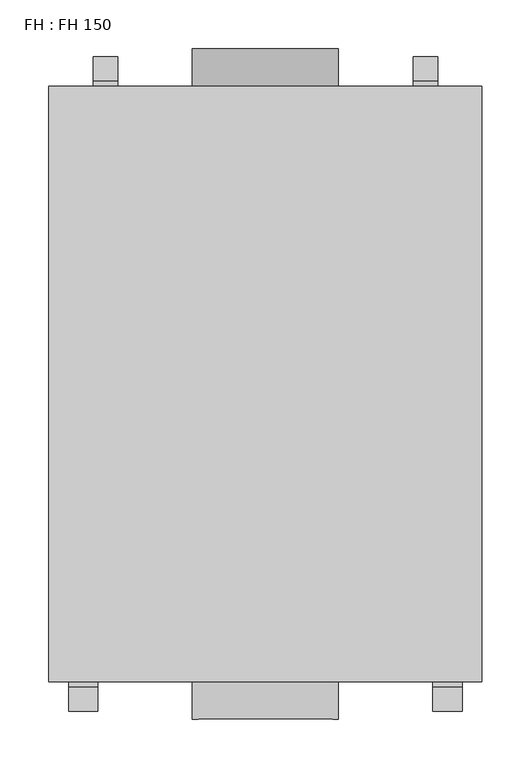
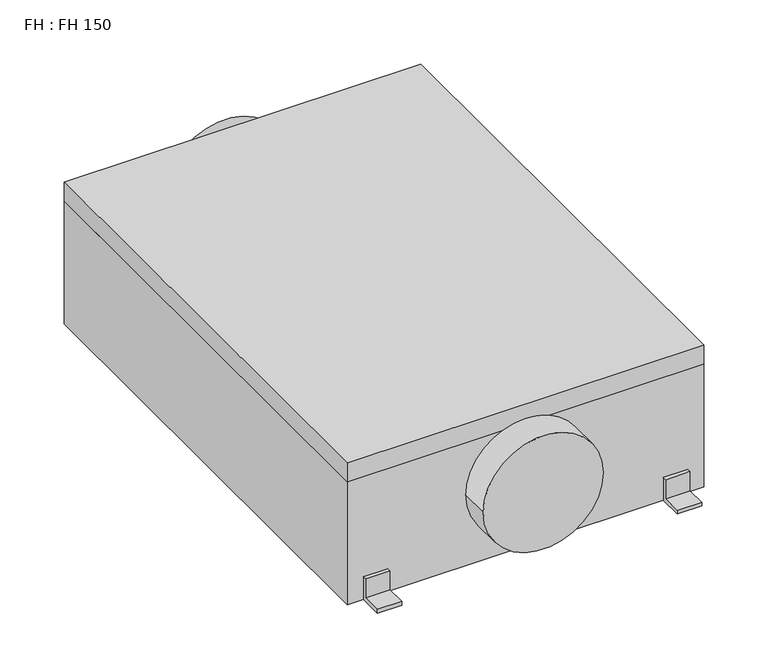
"""IFC4 building model written with IfcOpenShell, lengths in millimetres: proxy geometry, FH : FH 150."""

from ifc_helpers import new_model, si_unit, point, frame, frame_2d, origin, origin_with_axes, place, context, project, spatial, polyline, circle_curve, trimmed, segment, composite_curve, outline, extrude, source, transform, mapped, element, save


def fh_fh_150_19aaf5c2(model_context):
    return source(origin(), model_context, "Body", "SweptSolid", [
        extrude(outline(polyline([(221.0, 304.0), (221.0, -304.0), (-221.0, -304.0), (-221.0, 304.0), (221.0, 304.0)])), frame((0.0, 0.0, 161.0), z_axis=(0.0, 0.0, 1.0), x_axis=(1.0, 0.0, 0.0)), (0.0, 0.0, 1.0), 25.0),
        extrude(outline(polyline([(-304.0, 30.0), (-304.0, 0.0), (-334.0, 0.0), (-334.0, 5.0), (-309.0, 5.0), (-309.0, 30.0), (-304.0, 30.0)])), frame((171.0, 0.0, 0.0), z_axis=(1.0, 0.0, 0.0), x_axis=(0.0, 1.0, 0.0)), (0.0, 0.0, 1.0), 30.0),
        extrude(outline(polyline([(-304.0, 30.0), (-304.0, 0.0), (-334.0, 0.0), (-334.0, 5.0), (-309.0, 5.0), (-309.0, 30.0), (-304.0, 30.0)])), frame((-201.0, 0.0, 0.0), z_axis=(1.0, 0.0, 0.0), x_axis=(0.0, 1.0, 0.0)), (0.0, 0.0, 1.0), 30.0),
        extrude(outline(polyline([(221.0, 304.0), (221.0, -304.0), (-221.0, -304.0), (-221.0, 304.0), (221.0, 304.0)])), origin_with_axes(), (0.0, 0.0, 1.0), 161.0),
        extrude(outline(polyline([(304.0, 30.0), (309.0, 30.0), (309.0, 5.0), (334.0, 5.0), (334.0, 0.0), (304.0, 0.0), (304.0, 30.0)])), frame((151.0, 0.0, 0.0), z_axis=(1.0, 0.0, 0.0), x_axis=(0.0, 1.0, 0.0)), (0.0, 0.0, 1.0), 25.0),
        extrude(outline(polyline([(304.0, 30.0), (309.0, 30.0), (309.0, 5.0), (334.0, 5.0), (334.0, 0.0), (304.0, 0.0), (304.0, 30.0)])), frame((-176.0, 0.0, 0.0), z_axis=(1.0, 0.0, 0.0), x_axis=(0.0, 1.0, 0.0)), (0.0, 0.0, 1.0), 25.0),
        extrude(outline(composite_curve([segment(trimmed(circle_curve(frame_2d((93.0, 0.0)), 74.5), [point((93.0, -74.5))], [point((93.0, 74.5))], False, "CARTESIAN"), True, "CONTINUOUS"), segment(trimmed(circle_curve(frame_2d((93.0, 0.0)), 74.5), [point((93.0, 74.5))], [point((93.0, -74.5))], False, "CARTESIAN"), True, "CONTINUOUS")], self_intersect=False)), frame((0.0, -342.0, 0.0), z_axis=(0.0, 1.0, 0.0), x_axis=(0.0, 0.0, 1.0)), (0.0, 0.0, 1.0), 38.0),
        extrude(outline(composite_curve([segment(trimmed(circle_curve(frame_2d((93.0, 0.0)), 74.5), [point((93.0, -74.5))], [point((93.0, 74.5))], False, "CARTESIAN"), True, "CONTINUOUS"), segment(trimmed(circle_curve(frame_2d((93.0, 0.0)), 74.5), [point((93.0, 74.5))], [point((93.0, -74.5))], False, "CARTESIAN"), True, "CONTINUOUS")], self_intersect=False)), frame((0.0, 304.0, 0.0), z_axis=(0.0, 1.0, 0.0), x_axis=(0.0, 0.0, 1.0)), (0.0, 0.0, 1.0), 38.0),
    ])


if __name__ == "__main__":
    model = new_model("IFC4")
    model_context = context("Model", 3, world=origin())
    ifc_project = project(units=[si_unit("LENGTHUNIT", "METRE", prefix="MILLI")], contexts=[model_context])
    site = spatial("IfcSite", under=ifc_project)
    building = spatial("IfcBuilding", under=site)
    placement = place(None, origin())
    fh_fh_150_shape = fh_fh_150_19aaf5c2(model_context)
    element("IfcBuildingElementProxy", 1, Name="FH : FH 150", ObjectType="FH : FH 150", at=placement, inside=building, context=model_context, shape_type="MappedRepresentation", body=[
        mapped(fh_fh_150_shape, transform((0.0, 0.0, 0.0), x_axis=(1.0, 0.0, 0.0), y_axis=(0.0, 1.0, 0.0), z_axis=(0.0, 0.0, 1.0))),
    ])
    save(model, "model.ifc")
